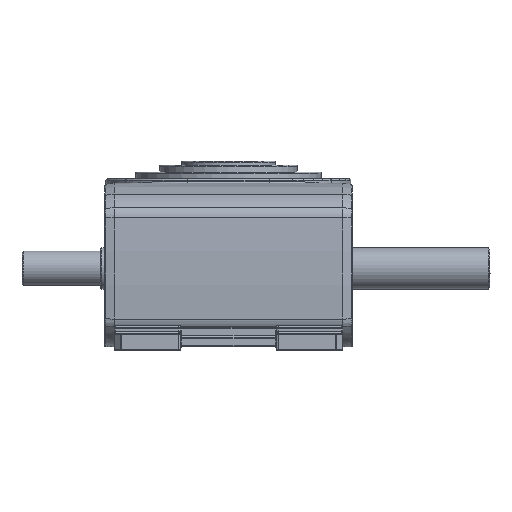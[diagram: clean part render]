
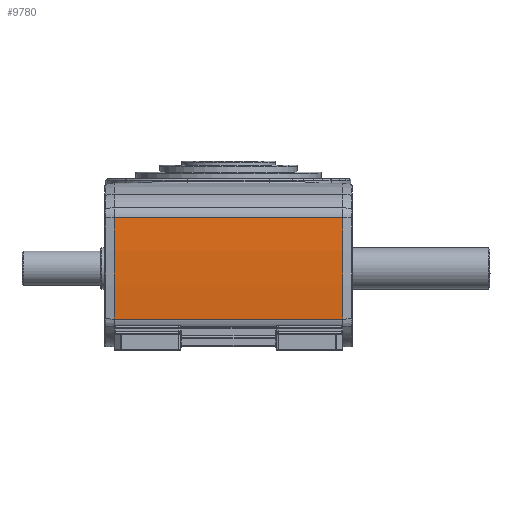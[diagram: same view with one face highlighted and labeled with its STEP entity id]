
A CAD part, front view. The second image highlights one B-rep face of the part: STEP entity #9780.
In plain terms, the highlighted cylindrical face has radius 500 mm (diameter 1000 mm), a partial arc.
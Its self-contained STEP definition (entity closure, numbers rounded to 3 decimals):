
#1181=DIRECTION('',(-1.,0.,0.));
#1182=VECTOR('',#1181,165.851);
#1183=CARTESIAN_POINT('',(82.926,-107.97,
-101.802));
#1184=LINE('',#1183,#1182);
#1220=CARTESIAN_POINT('',(82.928,390.674,-65.));
#1221=DIRECTION('',(-1.,0.,0.));
#1222=DIRECTION('',(0.,-0.997,-0.074));
#1223=AXIS2_PLACEMENT_3D('',#1220,#1221,#1222);
#1225=CARTESIAN_POINT('',(-82.928,390.674,-65.));
#1226=DIRECTION('',(1.,0.,0.));
#1227=DIRECTION('',(0.,-0.997,0.074));
#1228=AXIS2_PLACEMENT_3D('',#1225,#1226,#1227);
#1230=DIRECTION('',(-1.,0.,0.));
#1231=VECTOR('',#1230,165.865);
#1232=CARTESIAN_POINT('',(82.933,-107.97,
-28.198));
#1233=LINE('',#1232,#1231);
#8061=CARTESIAN_POINT('',(82.937,-107.97,
-28.198));
#8062=VERTEX_POINT('',#8061);
#8064=CARTESIAN_POINT('',(82.928,-107.97,
-101.802));
#8065=VERTEX_POINT('',#8064);
#8072=CARTESIAN_POINT('',(-82.923,-107.97,
-101.802));
#8073=VERTEX_POINT('',#8072);
#8074=CARTESIAN_POINT('',(-82.928,-107.97,
-28.198));
#8075=VERTEX_POINT('',#8074);
#9767=CARTESIAN_POINT('',(90.,390.674,-65.));
#9768=DIRECTION('',(1.,0.,0.));
#9769=DIRECTION('',(0.,0.,-1.));
#9770=AXIS2_PLACEMENT_3D('',#9767,#9768,#9769);
#9771=CYLINDRICAL_SURFACE('',#9770,500.);
#9772=ORIENTED_EDGE('',*,*,#9758,.F.);
#9773=ORIENTED_EDGE('',*,*,#9699,.T.);
#9775=ORIENTED_EDGE('',*,*,#9774,.F.);
#9777=ORIENTED_EDGE('',*,*,#9776,.F.);
#9778=EDGE_LOOP('',(#9772,#9773,#9775,#9777));
#9779=FACE_OUTER_BOUND('',#9778,.F.);
#1224=CIRCLE('',#1223,500.);
#1229=CIRCLE('',#1228,500.);
#9699=EDGE_CURVE('',#8065,#8073,#1184,.T.);
#9758=EDGE_CURVE('',#8065,#8062,#1224,.T.);
#9774=EDGE_CURVE('',#8075,#8073,#1229,.T.);
#9776=EDGE_CURVE('',#8062,#8075,#1233,.T.);
#9780=ADVANCED_FACE('',(#9779),#9771,.T.);
